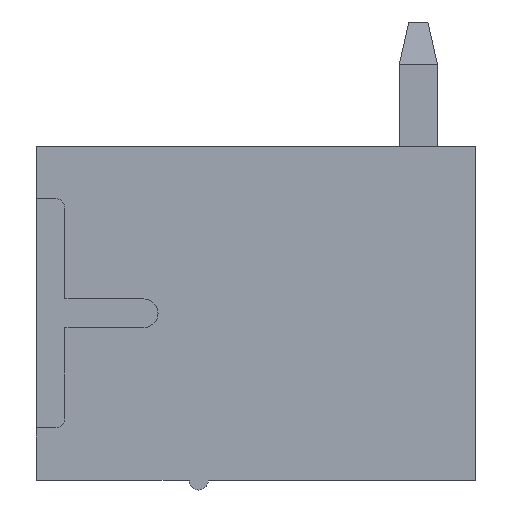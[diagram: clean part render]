
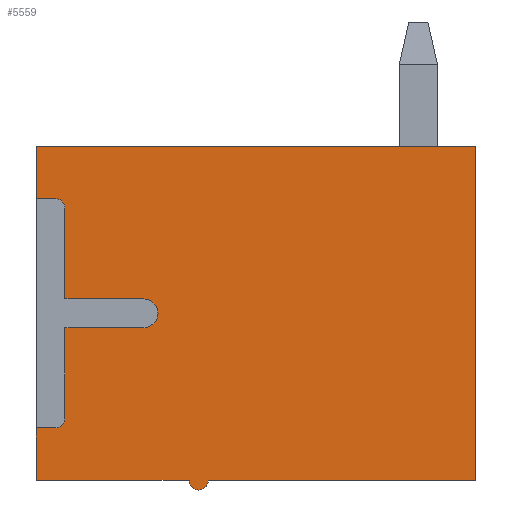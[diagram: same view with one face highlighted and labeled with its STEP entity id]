
A CAD part, left-side view. The second image highlights one B-rep face of the part: STEP entity #5559.
In plain terms, the highlighted planar face has unit normal (-1, 0, 0).
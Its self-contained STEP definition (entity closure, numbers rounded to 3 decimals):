
#797=CARTESIAN_POINT('',(0.15,8.8,-6.1));
#798=DIRECTION('',(1.,0.,0.));
#799=DIRECTION('',(0.,-1.,0.));
#800=AXIS2_PLACEMENT_3D('',#797,#798,#799);
#802=CARTESIAN_POINT('',(0.15,6.95,-3.9));
#803=DIRECTION('',(1.,0.,0.));
#804=DIRECTION('',(0.,0.,1.));
#805=AXIS2_PLACEMENT_3D('',#802,#803,#804);
#807=CARTESIAN_POINT('',(0.15,8.8,-1.7));
#808=DIRECTION('',(1.,0.,0.));
#809=DIRECTION('',(0.,0.,1.));
#810=AXIS2_PLACEMENT_3D('',#807,#808,#809);
#812=DIRECTION('',(0.,0.,-1.));
#813=VECTOR('',#812,1.1);
#814=CARTESIAN_POINT('',(0.15,9.2,-0.4));
#815=LINE('',#814,#813);
#816=DIRECTION('',(0.,1.,0.));
#817=VECTOR('',#816,9.2);
#818=CARTESIAN_POINT('',(0.15,0.,-0.4));
#819=LINE('',#818,#817);
#820=DIRECTION('',(0.,-1.,0.));
#821=VECTOR('',#820,5.6);
#822=CARTESIAN_POINT('',(0.15,5.6,-7.4));
#823=LINE('',#822,#821);
#824=CARTESIAN_POINT('',(0.15,5.8,-7.4));
#825=DIRECTION('',(-1.,0.,0.));
#826=DIRECTION('',(0.,1.,0.));
#827=AXIS2_PLACEMENT_3D('',#824,#825,#826);
#829=DIRECTION('',(0.,-1.,0.));
#830=VECTOR('',#829,3.2);
#831=CARTESIAN_POINT('',(0.15,9.2,-7.4));
#832=LINE('',#831,#830);
#833=DIRECTION('',(0.,0.,-1.));
#834=VECTOR('',#833,1.1);
#835=CARTESIAN_POINT('',(0.15,9.2,-6.3));
#836=LINE('',#835,#834);
#837=DIRECTION('',(0.,-1.,0.));
#838=VECTOR('',#837,0.4);
#839=CARTESIAN_POINT('',(0.15,9.2,-6.3));
#840=LINE('',#839,#838);
#857=DIRECTION('',(0.,0.,1.));
#858=VECTOR('',#857,1.9);
#859=CARTESIAN_POINT('',(0.15,8.6,-6.1));
#860=LINE('',#859,#858);
#865=DIRECTION('',(0.,-1.,0.));
#866=VECTOR('',#865,1.65);
#867=CARTESIAN_POINT('',(0.15,8.6,-4.2));
#868=LINE('',#867,#866);
#885=DIRECTION('',(0.,1.,0.));
#886=VECTOR('',#885,1.65);
#887=CARTESIAN_POINT('',(0.15,6.95,-3.6));
#888=LINE('',#887,#886);
#893=DIRECTION('',(0.,0.,1.));
#894=VECTOR('',#893,1.9);
#895=CARTESIAN_POINT('',(0.15,8.6,-3.6));
#896=LINE('',#895,#894);
#913=DIRECTION('',(0.,1.,0.));
#914=VECTOR('',#913,0.4);
#915=CARTESIAN_POINT('',(0.15,8.8,-1.5));
#916=LINE('',#915,#914);
#948=DIRECTION('',(0.,0.,-1.));
#949=VECTOR('',#948,7.);
#950=CARTESIAN_POINT('',(0.15,0.,-0.4));
#951=LINE('',#950,#949);
#3251=CARTESIAN_POINT('',(0.15,5.6,-7.4));
#3252=VERTEX_POINT('',#3251);
#3253=CARTESIAN_POINT('',(0.15,0.,-7.4));
#3254=VERTEX_POINT('',#3253);
#3273=CARTESIAN_POINT('',(0.15,9.2,-0.4));
#3275=VERTEX_POINT('',#3273);
#3323=CARTESIAN_POINT('',(0.15,0.,-0.4));
#3324=VERTEX_POINT('',#3323);
#3325=CARTESIAN_POINT('',(0.15,9.2,-7.4));
#3327=VERTEX_POINT('',#3325);
#3337=CARTESIAN_POINT('',(0.15,9.2,-1.5));
#3338=VERTEX_POINT('',#3337);
#3343=CARTESIAN_POINT('',(0.15,9.2,-6.3));
#3344=VERTEX_POINT('',#3343);
#3429=CARTESIAN_POINT('',(0.15,6.,-7.4));
#3431=VERTEX_POINT('',#3429);
#3632=CARTESIAN_POINT('',(0.15,8.6,-6.1));
#3633=CARTESIAN_POINT('',(0.15,8.8,-6.3));
#3634=VERTEX_POINT('',#3632);
#3635=VERTEX_POINT('',#3633);
#3636=CARTESIAN_POINT('',(0.15,8.6,-4.2));
#3637=VERTEX_POINT('',#3636);
#3638=CARTESIAN_POINT('',(0.15,6.95,-4.2));
#3639=VERTEX_POINT('',#3638);
#3640=CARTESIAN_POINT('',(0.15,6.95,-3.6));
#3641=VERTEX_POINT('',#3640);
#3642=CARTESIAN_POINT('',(0.15,8.6,-3.6));
#3643=VERTEX_POINT('',#3642);
#3644=CARTESIAN_POINT('',(0.15,8.6,-1.7));
#3645=VERTEX_POINT('',#3644);
#3646=CARTESIAN_POINT('',(0.15,8.8,-1.5));
#3647=VERTEX_POINT('',#3646);
#5524=CARTESIAN_POINT('',(0.15,4.6,-4.));
#5525=DIRECTION('',(1.,0.,0.));
#5526=DIRECTION('',(0.,0.,-1.));
#5527=AXIS2_PLACEMENT_3D('',#5524,#5525,#5526);
#5528=PLANE('',#5527);
#5530=ORIENTED_EDGE('',*,*,#5529,.T.);
#5532=ORIENTED_EDGE('',*,*,#5531,.F.);
#5534=ORIENTED_EDGE('',*,*,#5533,.T.);
#5536=ORIENTED_EDGE('',*,*,#5535,.T.);
#5538=ORIENTED_EDGE('',*,*,#5537,.F.);
#5540=ORIENTED_EDGE('',*,*,#5539,.T.);
#5542=ORIENTED_EDGE('',*,*,#5541,.T.);
#5544=ORIENTED_EDGE('',*,*,#5543,.F.);
#5546=ORIENTED_EDGE('',*,*,#5545,.T.);
#5547=ORIENTED_EDGE('',*,*,#4288,.F.);
#5548=ORIENTED_EDGE('',*,*,#5468,.F.);
#5550=ORIENTED_EDGE('',*,*,#5549,.T.);
#5551=ORIENTED_EDGE('',*,*,#5407,.F.);
#5553=ORIENTED_EDGE('',*,*,#5552,.F.);
#5555=ORIENTED_EDGE('',*,*,#5554,.F.);
#5556=ORIENTED_EDGE('',*,*,#4272,.F.);
#5557=EDGE_LOOP('',(#5530,#5532,#5534,#5536,#5538,#5540,#5542,#5544,#5546,#5547,
#5548,#5550,#5551,#5553,#5555,#5556));
#5558=FACE_OUTER_BOUND('',#5557,.F.);
#5559=ADVANCED_FACE('',(#5558),#5528,.F.);
#801=CIRCLE('',#800,0.2);
#806=CIRCLE('',#805,0.3);
#811=CIRCLE('',#810,0.2);
#828=CIRCLE('',#827,0.2);
#4272=EDGE_CURVE('',#3344,#3327,#836,.T.);
#4288=EDGE_CURVE('',#3275,#3338,#815,.T.);
#5407=EDGE_CURVE('',#3252,#3254,#823,.T.);
#5468=EDGE_CURVE('',#3324,#3275,#819,.T.);
#5529=EDGE_CURVE('',#3344,#3635,#840,.T.);
#5531=EDGE_CURVE('',#3634,#3635,#801,.T.);
#5533=EDGE_CURVE('',#3634,#3637,#860,.T.);
#5535=EDGE_CURVE('',#3637,#3639,#868,.T.);
#5537=EDGE_CURVE('',#3641,#3639,#806,.T.);
#5539=EDGE_CURVE('',#3641,#3643,#888,.T.);
#5541=EDGE_CURVE('',#3643,#3645,#896,.T.);
#5543=EDGE_CURVE('',#3647,#3645,#811,.T.);
#5545=EDGE_CURVE('',#3647,#3338,#916,.T.);
#5549=EDGE_CURVE('',#3324,#3254,#951,.T.);
#5552=EDGE_CURVE('',#3431,#3252,#828,.T.);
#5554=EDGE_CURVE('',#3327,#3431,#832,.T.);
